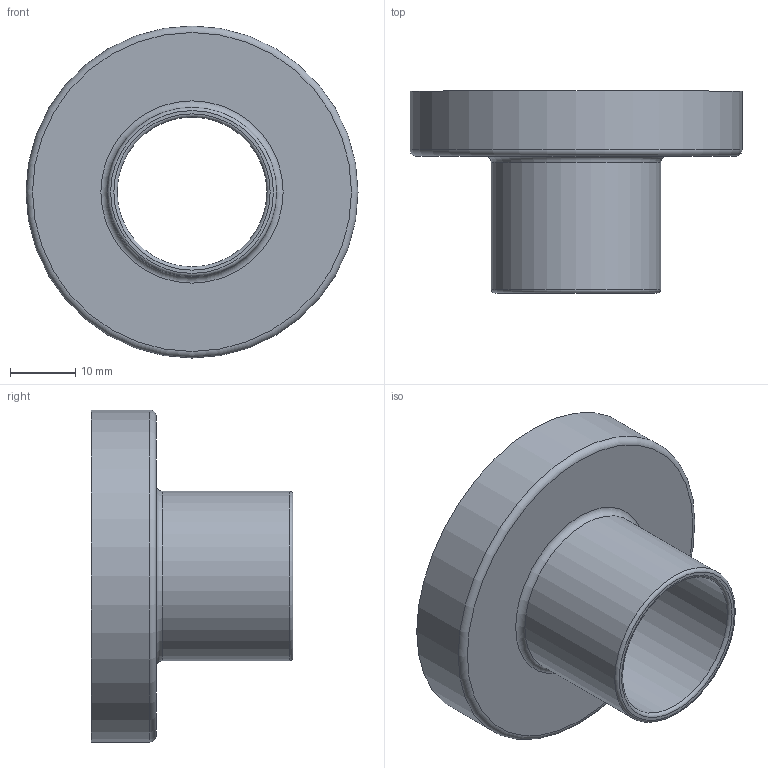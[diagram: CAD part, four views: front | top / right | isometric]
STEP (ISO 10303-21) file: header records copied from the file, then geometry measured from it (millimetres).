
FILE_DESCRIPTION(/* description */ ('COVER SUPPORTO A MURO TIGE ALIMENTAZ REMOTA'),/* implementation_level */ '2;1');
FILE_NAME(/* name */ 'C:\profileTemp\INVwork\I06946.step',/* time_stamp */ '2022-03-22T17:49:40+01:00',/* author */ ('Arianna'),/* organization */ (''),/* preprocessor_version */ 'ST-DEVELOPER v18.1',/* originating_system */ 'Autodesk Inventor 2021',/* authorisation */ '');
FILE_SCHEMA (('AUTOMOTIVE_DESIGN { 1 0 10303 214 3 1 1 }'));
Length unit declared in the file: millimetre
Products named in the file (1): I06946
Bounding box: 51 x 31 x 51 mm (x, y, z)
Volume: 7233.6 mm3; surface area: 9342.1 mm2
Topology: 1 solids, 1 shells, 18 faces, 41 edges, 27 vertices
Faces by surface type: torus 7, cylinder 5, plane 4, cone 2
Full cylindrical faces by diameter (mm): 23 x1, 26 x1, 46.5 x1, 48.6 x1, 51 x1
Entity records: 576 total; most frequent: DIRECTION 113, CARTESIAN_POINT 87, ORIENTED_EDGE 82, AXIS2_PLACEMENT_3D 53, EDGE_CURVE 41, CIRCLE 34, VERTEX_POINT 27, EDGE_LOOP 22
